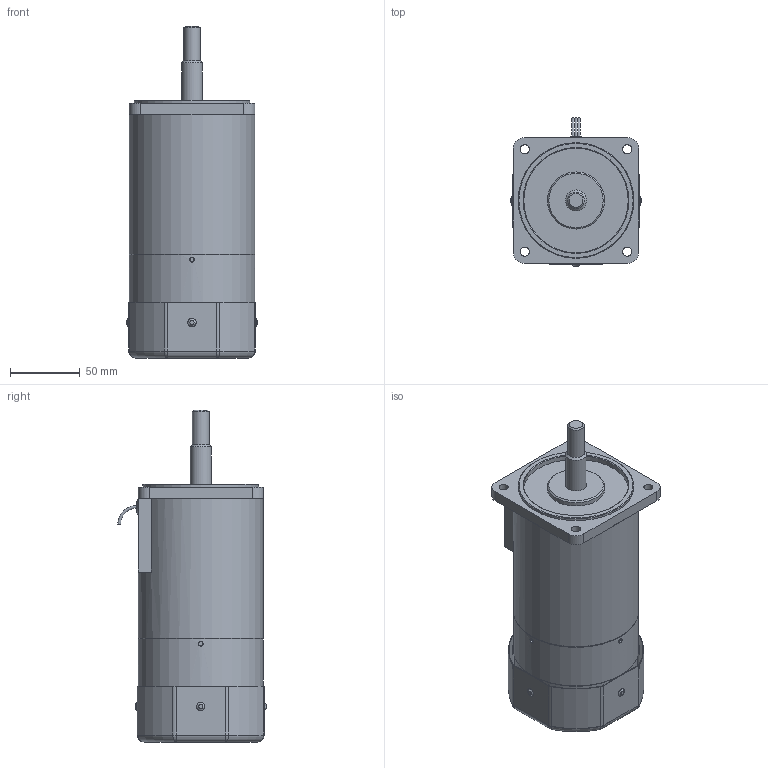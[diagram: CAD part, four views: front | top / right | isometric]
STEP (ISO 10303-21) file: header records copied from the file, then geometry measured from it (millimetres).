
FILE_DESCRIPTION (( 'STEP AP203' ), '1' );
FILE_NAME ('9BDG¤±-90FHC.STEP', '2020-06-19T08:05:42', ( '' ), ( '' ), 'SwSTEP 2.0', 'SolidWorks 2012', '' );
FILE_SCHEMA (( 'CONFIG_CONTROL_DESIGN' ));
Length unit declared in the file: millimetre
Products named in the file (4): 9BDG､ｱ-90FHC; FC-F_ル遽; 60BS; 9IDG､ｱ-90HC_ﾇ･ﾁﾘ
Assembly tree (3 placements, depth 2):
  9BDG､ｱ-90FHC
    9IDG､ｱ-90HC_ﾇ･ﾁﾘ
    60BS
    FC-F_ル遽
Bounding box: 94 x 106.5 x 238.3 mm (x, y, z)
Volume: 831146.6 mm3; surface area: 132759.4 mm2
Topology: 3 solids, 3 shells, 282 faces, 704 edges, 446 vertices
Faces by surface type: cylinder 156, plane 84, sphere 16, torus 12, cone 10, bspline 4
Full cylindrical faces by diameter (mm): 2 x3, 3 x12, 3.5 x4, 4 x6, 6.1 x1, 6.5 x4, 8 x1, 11.95 x1, 13 x1, 15 x1, 38 x1, 40 x1, 41 x1, 67 x1, 75 x1, 83 x2, 85 x1, 86.4 x1, 86.5 x1, 86.7 x1, 87.8 x1, 90 x2
Entity records: 9392 total; most frequent: CARTESIAN_POINT 2399, DIRECTION 1486, ORIENTED_EDGE 1198, AXIS2_PLACEMENT_3D 628, EDGE_CURVE 599, EDGE_LOOP 434, VERTEX_POINT 419, CIRCLE 344
